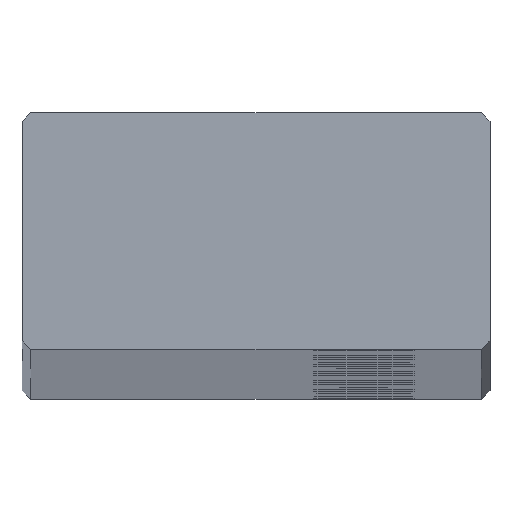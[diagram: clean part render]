
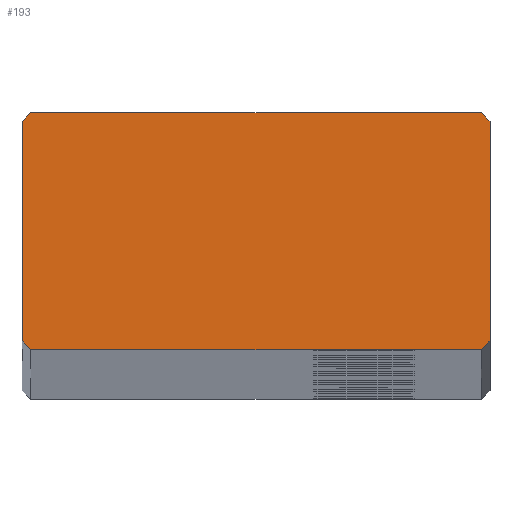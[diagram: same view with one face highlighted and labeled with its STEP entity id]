
A CAD part, top view. The second image highlights one B-rep face of the part: STEP entity #193.
In plain terms, the highlighted planar face has unit normal (0, 0, 1).
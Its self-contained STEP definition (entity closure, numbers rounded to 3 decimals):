
#193=ADVANCED_FACE('',(#498),#499,.T.);
#498=FACE_OUTER_BOUND('',#804,.T.);
#499=PLANE('',#805);
#804=EDGE_LOOP('',(#1722,#1723,#1724,#1725,#1726,#1727,#1728,#1729));
#805=AXIS2_PLACEMENT_3D('',#1730,#1731,#1732);
#1722=ORIENTED_EDGE('',*,*,#2008,.F.);
#1723=ORIENTED_EDGE('',*,*,#2030,.F.);
#1724=ORIENTED_EDGE('',*,*,#2027,.F.);
#1725=ORIENTED_EDGE('',*,*,#2024,.F.);
#1726=ORIENTED_EDGE('',*,*,#2021,.F.);
#1727=ORIENTED_EDGE('',*,*,#2018,.F.);
#1728=ORIENTED_EDGE('',*,*,#2015,.F.);
#1729=ORIENTED_EDGE('',*,*,#2012,.F.);
#1730=CARTESIAN_POINT('',(0.,8.2,1976.0));
#1731=DIRECTION('',(0.0,0.0,1.0));
#1732=DIRECTION('',(1.0,0.0,0.0));
#2008=EDGE_CURVE('',#2472,#2473,#2474,.T.);
#2012=EDGE_CURVE('',#2473,#2480,#2481,.T.);
#2015=EDGE_CURVE('',#2480,#2485,#2486,.T.);
#2018=EDGE_CURVE('',#2485,#2490,#2491,.T.);
#2021=EDGE_CURVE('',#2490,#2495,#2496,.T.);
#2024=EDGE_CURVE('',#2495,#2500,#2501,.T.);
#2027=EDGE_CURVE('',#2500,#2505,#2506,.T.);
#2030=EDGE_CURVE('',#2505,#2472,#2510,.T.);
#2472=VERTEX_POINT('',#3040);
#2473=VERTEX_POINT('',#3041);
#2474=LINE('',#3042,#3043);
#2480=VERTEX_POINT('',#3052);
#2481=LINE('',#3053,#3054);
#2485=VERTEX_POINT('',#3060);
#2486=LINE('',#3061,#3062);
#2490=VERTEX_POINT('',#3068);
#2491=LINE('',#3069,#3070);
#2495=VERTEX_POINT('',#3076);
#2496=LINE('',#3077,#3078);
#2500=VERTEX_POINT('',#3084);
#2501=LINE('',#3085,#3086);
#2505=VERTEX_POINT('',#3092);
#2506=LINE('',#3093,#3094);
#2510=LINE('',#3100,#3101);
#3040=CARTESIAN_POINT('',(-15.6,0.,1976.0));
#3041=CARTESIAN_POINT('',(-16.2,0.6,1976.0));
#3042=CARTESIAN_POINT('',(-15.6,0.,1976.0));
#3043=VECTOR('',#3720,1.0);
#3052=CARTESIAN_POINT('',(-16.2,15.8,1976.0));
#3053=CARTESIAN_POINT('',(-16.2,0.6,1976.0));
#3054=VECTOR('',#3724,1.0);
#3060=CARTESIAN_POINT('',(-15.6,16.4,1976.0));
#3061=CARTESIAN_POINT('',(-16.2,15.8,1976.0));
#3062=VECTOR('',#3727,1.0);
#3068=CARTESIAN_POINT('',(15.6,16.4,1976.0));
#3069=CARTESIAN_POINT('',(-15.6,16.4,1976.0));
#3070=VECTOR('',#3730,1.0);
#3076=CARTESIAN_POINT('',(16.2,15.8,1976.0));
#3077=CARTESIAN_POINT('',(15.6,16.4,1976.0));
#3078=VECTOR('',#3733,1.0);
#3084=CARTESIAN_POINT('',(16.2,0.6,1976.0));
#3085=CARTESIAN_POINT('',(16.2,0.6,1976.0));
#3086=VECTOR('',#3736,1.0);
#3092=CARTESIAN_POINT('',(15.6,0.,1976.0));
#3093=CARTESIAN_POINT('',(15.6,0.,1976.0));
#3094=VECTOR('',#3739,1.0);
#3100=CARTESIAN_POINT('',(-15.6,0.,1976.0));
#3101=VECTOR('',#3742,1.0);
#3720=DIRECTION('',(-0.707,0.707,0.0));
#3724=DIRECTION('',(0.0,1.0,0.0));
#3727=DIRECTION('',(0.707,0.707,0.0));
#3730=DIRECTION('',(1.0,0.0,0.0));
#3733=DIRECTION('',(0.707,-0.707,0.0));
#3736=DIRECTION('',(-0.0,-1.0,-0.0));
#3739=DIRECTION('',(-0.707,-0.707,-0.0));
#3742=DIRECTION('',(-1.0,-0.0,-0.0));
